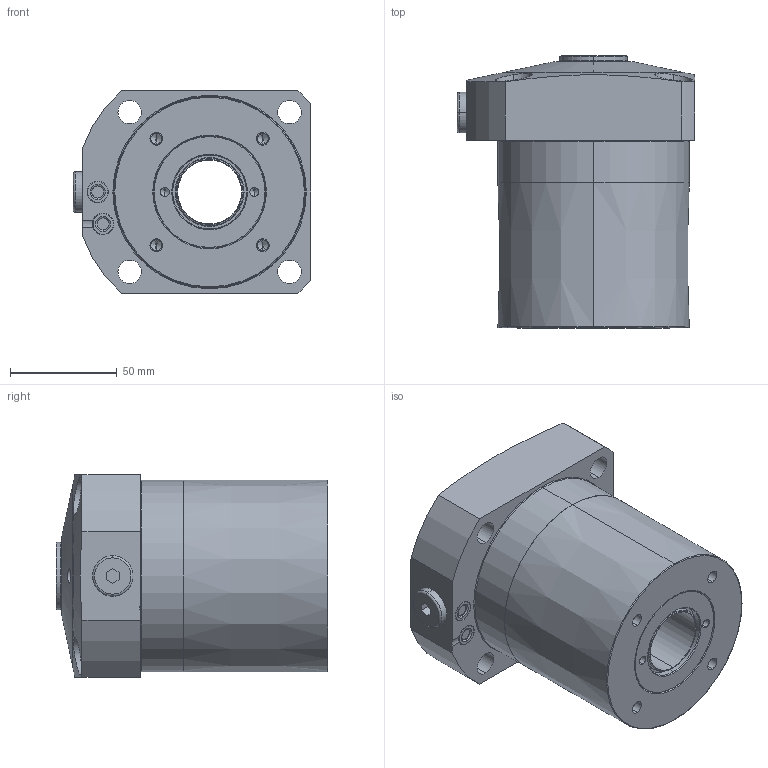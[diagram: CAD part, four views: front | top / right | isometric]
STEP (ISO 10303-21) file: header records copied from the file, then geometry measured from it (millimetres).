
FILE_DESCRIPTION(/* description */ (''),/* implementation_level */ '2;1');
FILE_NAME(/* name */ 'KFSS90-C.stp',/* time_stamp */ '2026-02-06T09:59:15+08:00',/* author */ (''),/* organization */ (''),/* preprocessor_version */ 'ST-DEVELOPER v16.7',/* originating_system */ 'SIEMENS PLM Software NX 12.0',/* authorisation */ '');
FILE_SCHEMA (('AUTOMOTIVE_DESIGN { 1 0 10303 214 3 1 1 1 }'));
Length unit declared in the file: millimetre
Products named in the file (5): KFSS90-C-03-P7; KFSS90-C-01; KFSS90-C-01-P7; KFSS90-C-02; LC0903-C-D_step
Assembly tree (4 placements, depth 2):
  LC0903-C-D_step
    KFSS90-C-02
    KFSS90-C-01-P7
    KFSS90-C-01
    KFSS90-C-03-P7
Bounding box: 111.5 x 127.6 x 95 mm (x, y, z)
Volume: 766501.8 mm3; surface area: 75176.9 mm2
Topology: 4 solids, 4 shells, 216 faces, 477 edges, 284 vertices
Faces by surface type: cylinder 79, cone 49, plane 45, torus 43
Entity records: 6323 total; most frequent: CARTESIAN_POINT 1230, DIRECTION 1151, ORIENTED_EDGE 922, AXIS2_PLACEMENT_3D 496, EDGE_CURVE 461, VERTEX_POINT 284, CIRCLE 275, EDGE_LOOP 261
